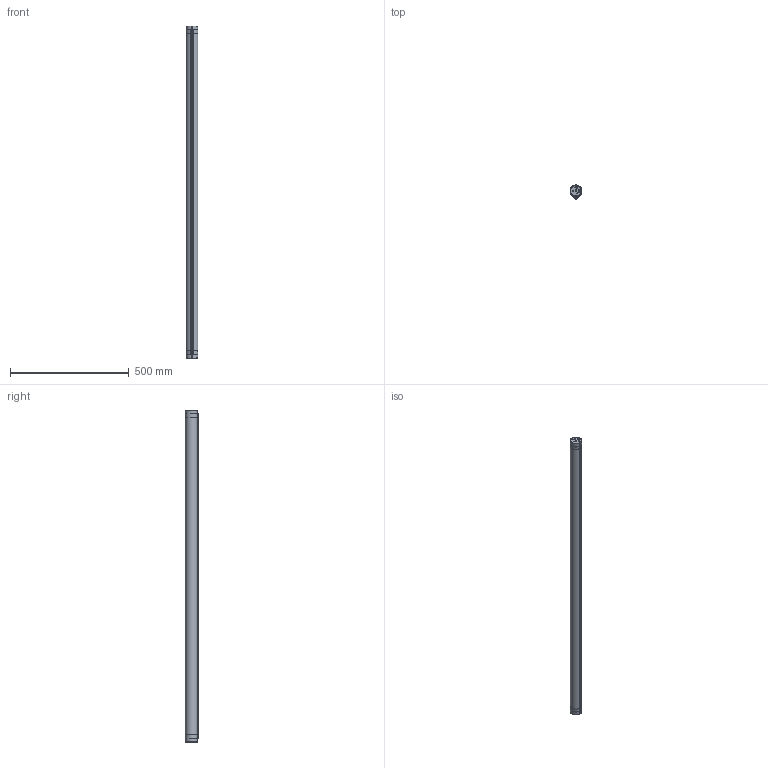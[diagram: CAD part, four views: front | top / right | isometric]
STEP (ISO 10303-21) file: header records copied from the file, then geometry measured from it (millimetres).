
FILE_DESCRIPTION(/* description */ (''),/* implementation_level */ '2;1');
FILE_NAME(/* name */ '1A472.stp',/* time_stamp */ '2023-11-03T14:23:27+01:00',/* author */ ('a.zanardi'),/* organization */ (''),/* preprocessor_version */ 'ST-DEVELOPER v19.2',/* originating_system */ 'Autodesk Inventor 2023',/* authorisation */ '');
FILE_SCHEMA (('AUTOMOTIVE_DESIGN { 1 0 10303 214 3 1 1 }'));
Length unit declared in the file: millimetre
Products named in the file (15): ST3A472XXXXA.30.20R; ST3A472 - GRUPPO BARRA PMMAR; 3A420047A; ST3A472 - SUPPORTO TESTAR; 3A420037B; 3A4200500 - L1340; 3A4200620; ST3A472 - TESTAR; 3A420027B; 3A420046A; 50740110; ST3A472 - GRUPPO SORGENTE 3000KR; 3A4200630; 3A4200650; 3A420075A
Assembly tree (18 placements, depth 4):
  ST3A472XXXXA.30.20R
    ST3A472 - GRUPPO BARRA PMMAR
      3A420047A
      ST3A472 - SUPPORTO TESTAR  x2
        3A420037B
      3A4200500 - L1340
      3A4200620  x2
    ST3A472 - TESTAR  x2
      3A420027B
      3A420046A
      50740110
    ST3A472 - GRUPPO SORGENTE 3000KR
      3A4200630
      3A4200650  x2
      3A420075A
Bounding box: 50 x 56.7 x 1400 mm (x, y, z)
Volume: 2736724.8 mm3; surface area: 352202.4 mm2
Topology: 16 solids, 16 shells, 372 faces, 956 edges, 628 vertices
Faces by surface type: plane 205, cylinder 131, cone 18, bspline 8, torus 6, sphere 4
Full cylindrical faces by diameter (mm): 1.8 x2, 2 x2, 2.459 x10, 2.5 x2, 3 x2, 3.4 x2, 4 x2, 5 x2, 6.6 x2, 6.917 x2, 8 x4, 9 x2, 10 x2, 11 x2, 30.25 x2, 34.75 x2, 37.5 x2, 43.5 x2, 44.9 x2, 45 x2, 47 x2, 50 x4
Entity records: 7703 total; most frequent: CARTESIAN_POINT 1681, DIRECTION 1171, ORIENTED_EDGE 1110, EDGE_CURVE 555, AXIS2_PLACEMENT_3D 407, VERTEX_POINT 366, LINE 357, VECTOR 357
